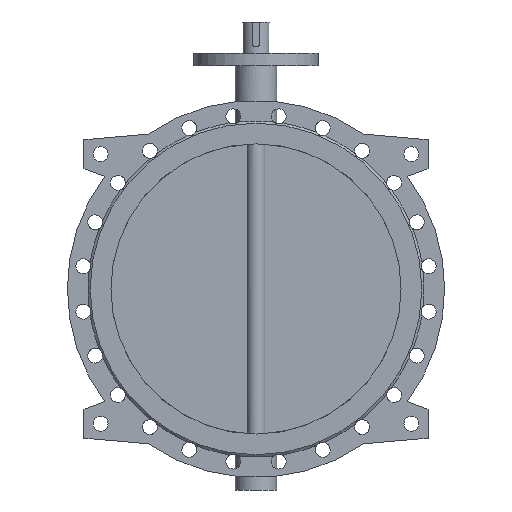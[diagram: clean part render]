
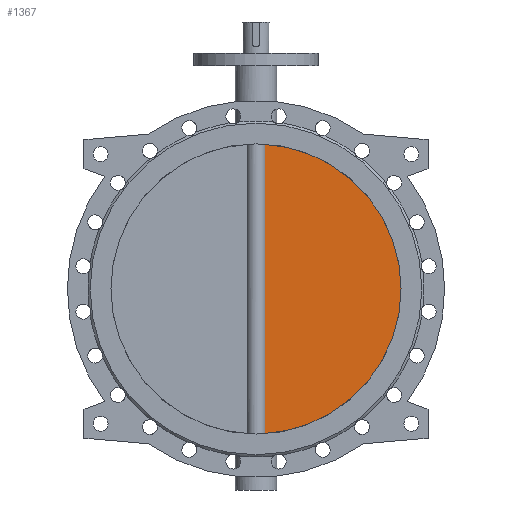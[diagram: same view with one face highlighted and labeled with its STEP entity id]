
A CAD part, front view. The second image highlights one B-rep face of the part: STEP entity #1367.
In plain terms, the highlighted planar face has unit normal (0, -1, 0).
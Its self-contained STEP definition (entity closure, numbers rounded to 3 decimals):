
#1367=ADVANCED_FACE('',(#2767),#2769,.T.);
#2767=FACE_BOUND('',#2768,.T.);
#2768=EDGE_LOOP('',(#3779,#3780));
#2769=PLANE('',#2770);
#2770=AXIS2_PLACEMENT_3D('',#2771,#2772,#2773);
#2771=CARTESIAN_POINT('',(0.,-7.5,0.));
#2772=DIRECTION('',(0.,-1.,0.));
#2773=DIRECTION('',(1.,0.,0.));
#3779=ORIENTED_EDGE('',*,*,#4277,.T.);
#3780=ORIENTED_EDGE('',*,*,#4287,.T.);
#4277=EDGE_CURVE('',#5139,#5140,#5141,.F.);
#4287=EDGE_CURVE('',#5140,#5139,#5159,.T.);
#5139=VERTEX_POINT('',#11559);
#5140=VERTEX_POINT('',#11560);
#5141=CIRCLE('',#11561,350.);
#5159=LINE('',#11989,#11990);
#11559=CARTESIAN_POINT('',(21.213,-7.5,-349.357));
#11560=CARTESIAN_POINT('',(21.213,-7.5,349.357));
#11561=AXIS2_PLACEMENT_3D('',#11562,#11563,#11564);
#11562=CARTESIAN_POINT('',(0.,-7.5,0.));
#11563=DIRECTION('',(0.,1.,0.));
#11564=DIRECTION('',(0.061,0.,0.998));
#11989=CARTESIAN_POINT('',(21.213,-7.5,349.357));
#11990=VECTOR('',#11991,1.);
#11991=DIRECTION('',(0.,0.,-1.));
